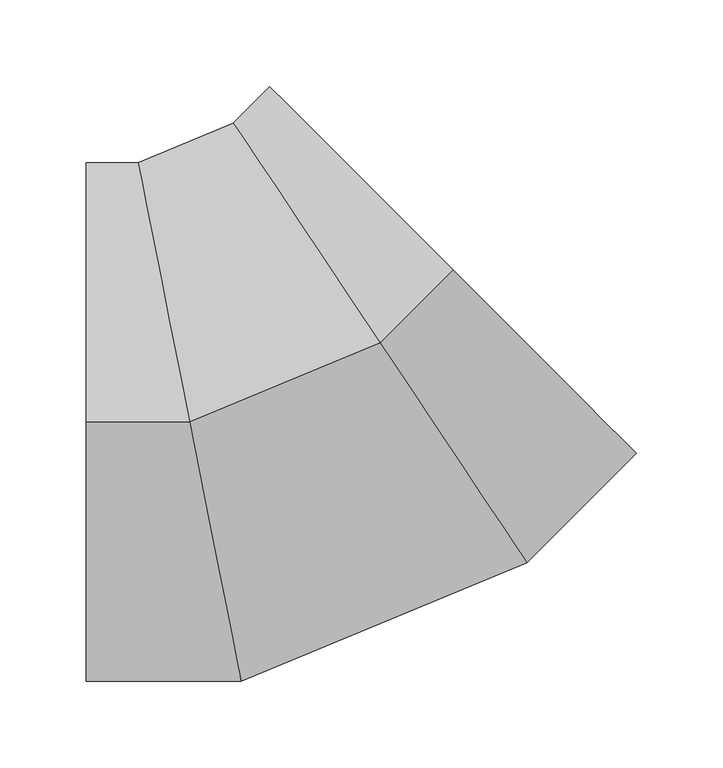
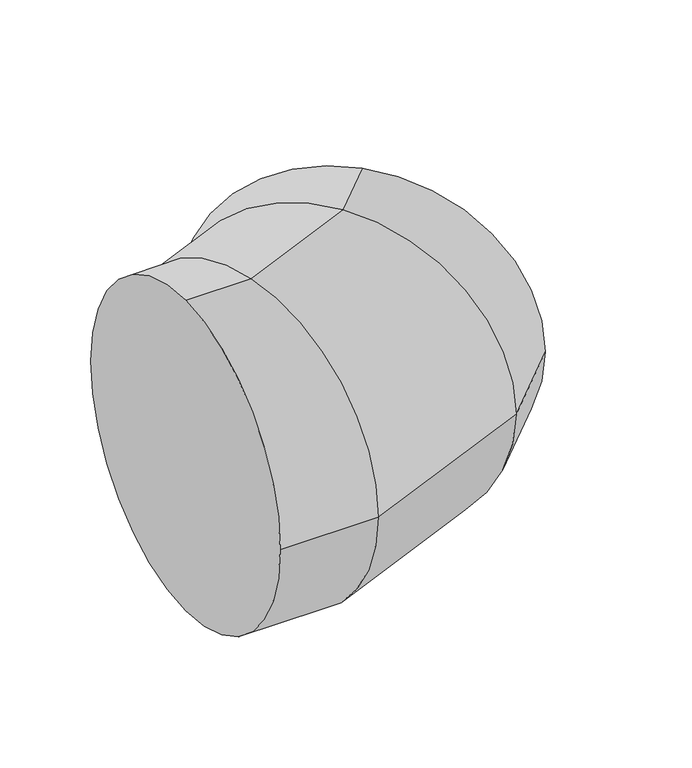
"""IFC4 building model written with IfcOpenShell, lengths in millimetres: duct fitting geometry, BL_ОтводВоздуховодов_Круглый : Фланцевое соединение."""

from ifc_helpers import new_model, si_unit, frame, origin, place, context, project, spatial, circle_curve, ellipse_curve, source, transform, mapped, element, save
from ifc_brep_helpers import plane_surface, cylinder_surface, advanced_brep


def duct_fitting_ae186bbf(model_context):
    return source(origin(), model_context, "Body", "AdvancedBrep", [
        advanced_brep(
        [(-124.2640687, 0.0, 150.0), (-124.2640687, 150.0, 0.0), (-124.2640687, 0.0, -150.0), (-124.2640687, -150.0, 0.0), (-64.5903585, 0.0, 150.0), (-94.4272136, 150.0, 0.0), (-64.5903585, 0.0, -150.0), (-34.7535034, -150.0, 0.0), (45.6722805, 45.6722805, 150.0), (-39.2958941, 172.8361402, 0.0), (45.6722805, 45.6722805, -150.0), (130.6404551, -81.4915793, 0.0), (87.8679656, 87.8679656, 150.0), (-18.1980515, 193.9339828, 0.0), (87.8679656, 87.8679656, -150.0), (193.9339828, -18.1980515, 0.0)],
        [
            (0, 1, circle_curve(frame((-124.2640687, 0.0, 0.0), z_axis=(-1.0, 0.0, 0.0), x_axis=(0.0, 1.0, 0.0)), 150.0)),
            (1, 2, circle_curve(frame((-124.2640687, 0.0, 0.0), z_axis=(-1.0, 0.0, 0.0), x_axis=(0.0, 1.0, 0.0)), 150.0)),
            (2, 3, circle_curve(frame((-124.2640687, 0.0, 0.0), z_axis=(-1.0, 0.0, 0.0), x_axis=(0.0, 1.0, 0.0)), 150.0)),
            (3, 0, circle_curve(frame((-124.2640687, 0.0, 0.0), z_axis=(-1.0, 0.0, 0.0), x_axis=(0.0, 1.0, 0.0)), 150.0)),
            (0, 4),
            (4, 5, ellipse_curve(frame((-64.5903585, 0.0, 0.0), z_axis=(-0.9807852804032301, -0.19509032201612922, 0.0), x_axis=(-0.1950903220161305, 0.98078528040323, 0.0)), 152.9386737, 150.0)),
            (5, 1),
            (5, 6, ellipse_curve(frame((-64.5903585, 0.0, 0.0), z_axis=(-0.9807852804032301, -0.19509032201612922, 0.0), x_axis=(-0.1950903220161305, 0.98078528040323, 0.0)), 152.9386737, 150.0)),
            (6, 2),
            (6, 7, ellipse_curve(frame((-64.5903585, 0.0, 0.0), z_axis=(-0.9807852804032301, -0.19509032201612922, 0.0), x_axis=(-0.1950903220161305, 0.98078528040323, 0.0)), 152.9386737, 150.0)),
            (7, 3),
            (7, 4, ellipse_curve(frame((-64.5903585, 0.0, 0.0), z_axis=(-0.9807852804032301, -0.19509032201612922, 0.0), x_axis=(-0.1950903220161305, 0.98078528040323, 0.0)), 152.9386737, 150.0)),
            (4, 8),
            (8, 9, ellipse_curve(frame((45.6722805, 45.6722805, 0.0), z_axis=(-0.8314696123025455, -0.5555702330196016, 0.0), x_axis=(-0.5555702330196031, 0.8314696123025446, 0.0)), 152.9386737, 150.0)),
            (9, 5),
            (9, 10, ellipse_curve(frame((45.6722805, 45.6722805, 0.0), z_axis=(-0.8314696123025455, -0.5555702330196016, 0.0), x_axis=(-0.5555702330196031, 0.8314696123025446, 0.0)), 152.9386737, 150.0)),
            (10, 6),
            (10, 11, ellipse_curve(frame((45.6722805, 45.6722805, 0.0), z_axis=(-0.8314696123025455, -0.5555702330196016, 0.0), x_axis=(-0.5555702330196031, 0.8314696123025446, 0.0)), 152.9386737, 150.0)),
            (11, 7),
            (11, 8, ellipse_curve(frame((45.6722805, 45.6722805, 0.0), z_axis=(-0.8314696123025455, -0.5555702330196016, 0.0), x_axis=(-0.5555702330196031, 0.8314696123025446, 0.0)), 152.9386737, 150.0)),
            (8, 12),
            (12, 13, circle_curve(frame((87.8679656, 87.8679656, 0.0), z_axis=(-0.7071067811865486, -0.7071067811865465, 0.0), x_axis=(-0.7071067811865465, 0.7071067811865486, 0.0)), 150.0)),
            (13, 9),
            (13, 14, circle_curve(frame((87.8679656, 87.8679656, 0.0), z_axis=(-0.7071067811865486, -0.7071067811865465, 0.0), x_axis=(-0.7071067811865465, 0.7071067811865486, 0.0)), 150.0)),
            (14, 10),
            (14, 15, circle_curve(frame((87.8679656, 87.8679656, 0.0), z_axis=(-0.7071067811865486, -0.7071067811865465, 0.0), x_axis=(-0.7071067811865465, 0.7071067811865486, 0.0)), 150.0)),
            (15, 11),
            (15, 12, circle_curve(frame((87.8679656, 87.8679656, 0.0), z_axis=(-0.7071067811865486, -0.7071067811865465, 0.0), x_axis=(-0.7071067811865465, 0.7071067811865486, 0.0)), 150.0)),
        ],
        [
            plane_surface(frame((-124.2640687, 0.0, 0.0), z_axis=(-1.0, 0.0, 0.0), x_axis=(0.0, 0.0, 1.0))),
            cylinder_surface(frame((-124.2640687, 0.0, 0.0), z_axis=(-1.0, 0.0, 0.0), x_axis=(0.0, 1.0, 0.0)), 150.0),
            cylinder_surface(frame((-64.5903585, 0.0, 0.0), z_axis=(-0.9238795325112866, -0.3826834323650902, 0.0), x_axis=(-0.3826834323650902, 0.9238795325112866, 0.0)), 150.0),
            cylinder_surface(frame((45.6722805, 45.6722805, 0.0), z_axis=(-0.7071067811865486, -0.7071067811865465, 0.0), x_axis=(-0.7071067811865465, 0.7071067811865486, 0.0)), 150.0),
            plane_surface(frame((87.8679656, 87.8679656, 0.0), z_axis=(0.7071067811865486, 0.7071067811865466, 0.0), x_axis=(0.0, 0.0, 1.0))),
        ],
        [
            (0, [[1, 2, 3, 4]]),
            (1, [[-1, 5, 6, 7]]),
            (1, [[-2, -7, 8, 9]]),
            (1, [[-3, -9, 10, 11]]),
            (1, [[-4, -11, 12, -5]]),
            (2, [[-6, 13, 14, 15]]),
            (2, [[-8, -15, 16, 17]]),
            (2, [[-10, -17, 18, 19]]),
            (2, [[-12, -19, 20, -13]]),
            (3, [[-14, 21, 22, 23]]),
            (3, [[-16, -23, 24, 25]]),
            (3, [[-18, -25, 26, 27]]),
            (3, [[-20, -27, 28, -21]]),
            (4, [[-28, -26, -24, -22]]),
        ],
    ),
    ])


if __name__ == "__main__":
    model = new_model("IFC4")
    model_context = context("Model", 3, world=origin())
    ifc_project = project(units=[si_unit("LENGTHUNIT", "METRE", prefix="MILLI")], contexts=[model_context])
    site = spatial("IfcSite", under=ifc_project)
    building = spatial("IfcBuilding", under=site)
    placement = place(None, origin())
    duct_fitting_shape = duct_fitting_ae186bbf(model_context)
    element("IfcDuctFitting", 1, ObjectType="BL_ОтводВоздуховодов_Круглый : Фланцевое соединение", at=placement, inside=building, context=model_context, shape_type="MappedRepresentation", body=[
        mapped(duct_fitting_shape, transform((0.0, 0.0, 0.0), x_axis=(1.0, 0.0, 0.0), y_axis=(0.0, 1.0, 0.0), z_axis=(0.0, 0.0, 1.0))),
    ])
    save(model, "model.ifc")
